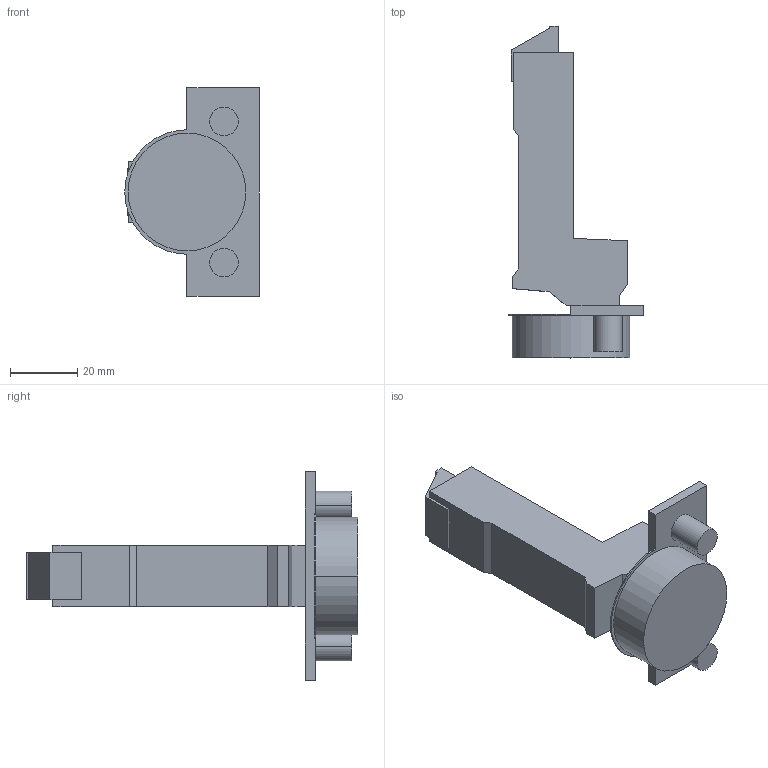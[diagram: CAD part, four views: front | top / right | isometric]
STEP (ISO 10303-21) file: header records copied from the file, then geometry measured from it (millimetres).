
FILE_DESCRIPTION (( 'STEP AP214' ), '1' );
FILE_NAME ('Scharnier T Click-on 110° G_BB, K19_Dübel.step', '2018-09-12T09:10:11', ( '' ), ( '' ), 'SwSTEP 2.0', 'SolidWorks 2017', '' );
FILE_SCHEMA (( 'AUTOMOTIVE_DESIGN' ));
Length unit declared in the file: millimetre
Products named in the file (1): Scharnier T Click-on 110° G_BB, K19_Dübel
Bounding box: 40 x 98.7 x 62 mm (x, y, z)
Volume: 46161.2 mm3; surface area: 13104 mm2
Topology: 1 solids, 1 shells, 59 faces, 145 edges, 96 vertices
Faces by surface type: plane 41, cylinder 18
Entity records: 1773 total; most frequent: DIRECTION 301, CARTESIAN_POINT 301, ORIENTED_EDGE 290, EDGE_CURVE 145, LINE 109, VECTOR 109, VERTEX_POINT 96, AXIS2_PLACEMENT_3D 96
